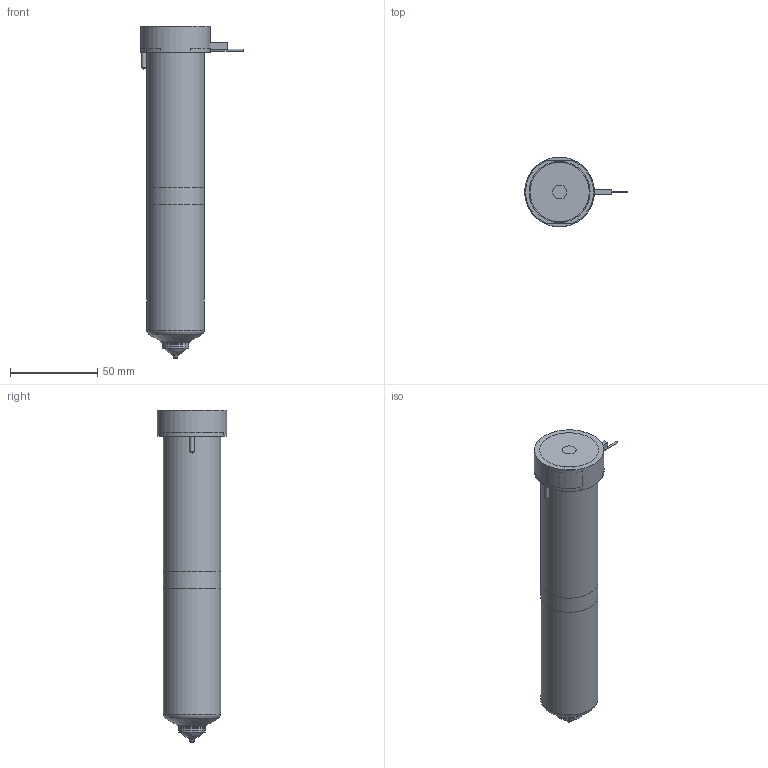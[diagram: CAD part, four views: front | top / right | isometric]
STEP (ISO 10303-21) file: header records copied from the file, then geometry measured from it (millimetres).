
FILE_DESCRIPTION(/* description */ (''),/* implementation_level */ '2;1');
FILE_NAME(/* name */ 'BXTV19175_200C_b',/* time_stamp */ '2007-01-18T10:02:07+13:00',/* author */ (''),/* organization */ (''),/* preprocessor_version */ 'ST-DEVELOPER v9',/* originating_system */ 'UGS - NX 4.0',/* authorisation */ '');
FILE_SCHEMA (('CONFIG_CONTROL_DESIGN'));
Length unit declared in the file: millimetre
Products named in the file (1): BXTV19175_200C_b
Bounding box: 58.85 x 40 x 190.46 mm (x, y, z)
Volume: 290804.6 mm3; surface area: 45074 mm2
Topology: 6 solids, 6 shells, 82 faces, 163 edges, 104 vertices
Faces by surface type: plane 36, cylinder 23, cone 13, torus 8, bspline 2
Full cylindrical faces by diameter (mm): 1 x3, 2.5 x2, 3 x1, 8 x1, 14.61 x1, 15.01 x2, 18.3 x1, 28.6 x1, 33 x2, 40 x1
Entity records: 2043 total; most frequent: CARTESIAN_POINT 427, DIRECTION 340, ORIENTED_EDGE 236, AXIS2_PLACEMENT_3D 151, EDGE_LOOP 128, EDGE_CURVE 118, VERTEX_POINT 95, ADVANCED_FACE 82
